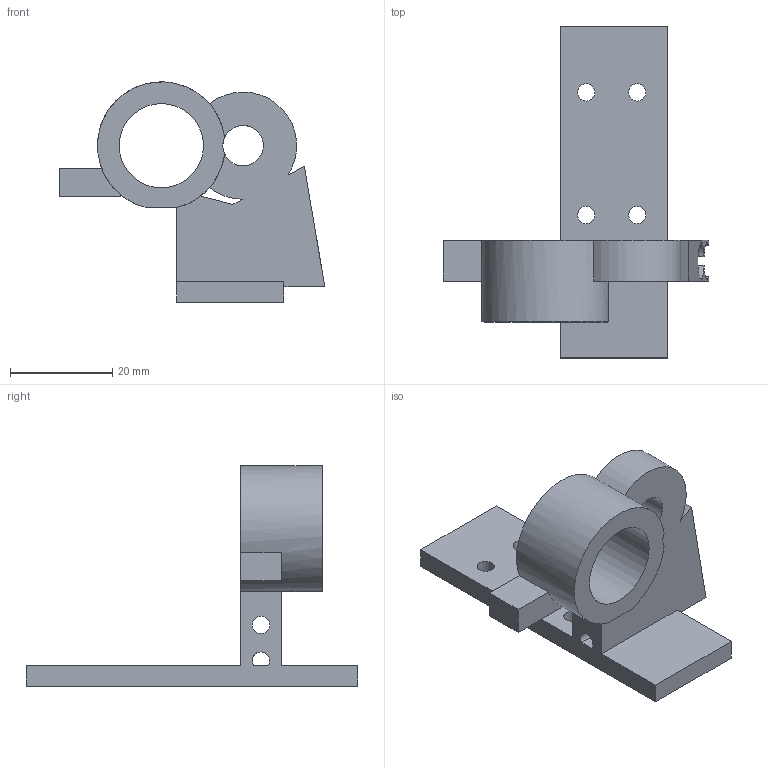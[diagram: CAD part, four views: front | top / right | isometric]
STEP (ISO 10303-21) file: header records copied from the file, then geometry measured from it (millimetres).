
FILE_DESCRIPTION(('Open CASCADE Model'),'2;1');
FILE_NAME('Open CASCADE Shape Model','2026-10-16T05:25:08',('Author'),( 'Open CASCADE'),'Open CASCADE STEP processor 7.9','Open CASCADE 7.9' ,'Unknown');
FILE_SCHEMA(('AUTOMOTIVE_DESIGN { 1 0 10303 214 1 1 1 1 }'));
Length unit declared in the file: millimetre
Products named in the file (1): Open CASCADE STEP translator 7.9 16
Bounding box: 52 x 65 x 43.13 mm (x, y, z)
Volume: 15143.6 mm3; surface area: 8975.2 mm2
Topology: 1 solids, 1 shells, 39 faces, 119 edges, 80 vertices
Faces by surface type: plane 24, cylinder 15
Full cylindrical faces by diameter (mm): 3.4 x6, 7.94 x1, 16.5 x1
Entity records: 3020 total; most frequent: CARTESIAN_POINT 738, DIRECTION 399, ORIENTED_EDGE 238, PCURVE 238, DEFINITIONAL_REPRESENTATION 238, LINE 218, VECTOR 218, EDGE_CURVE 119
